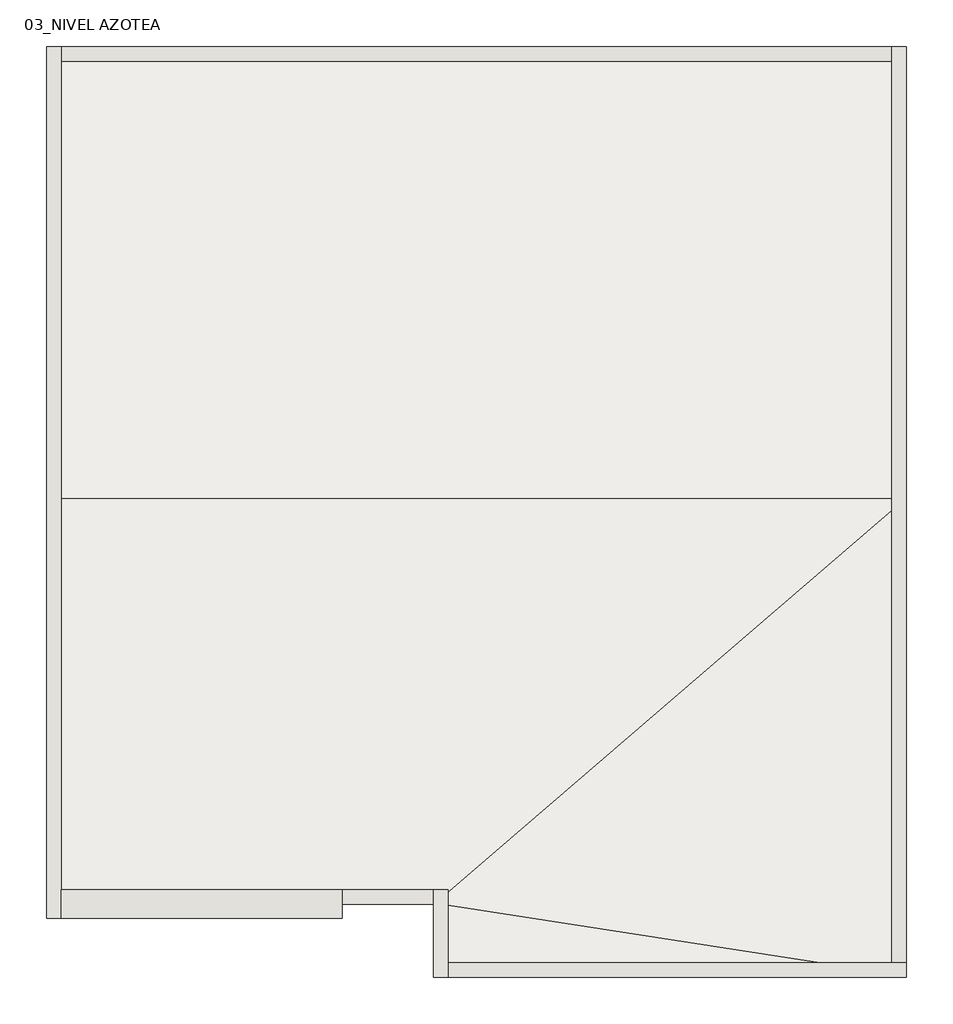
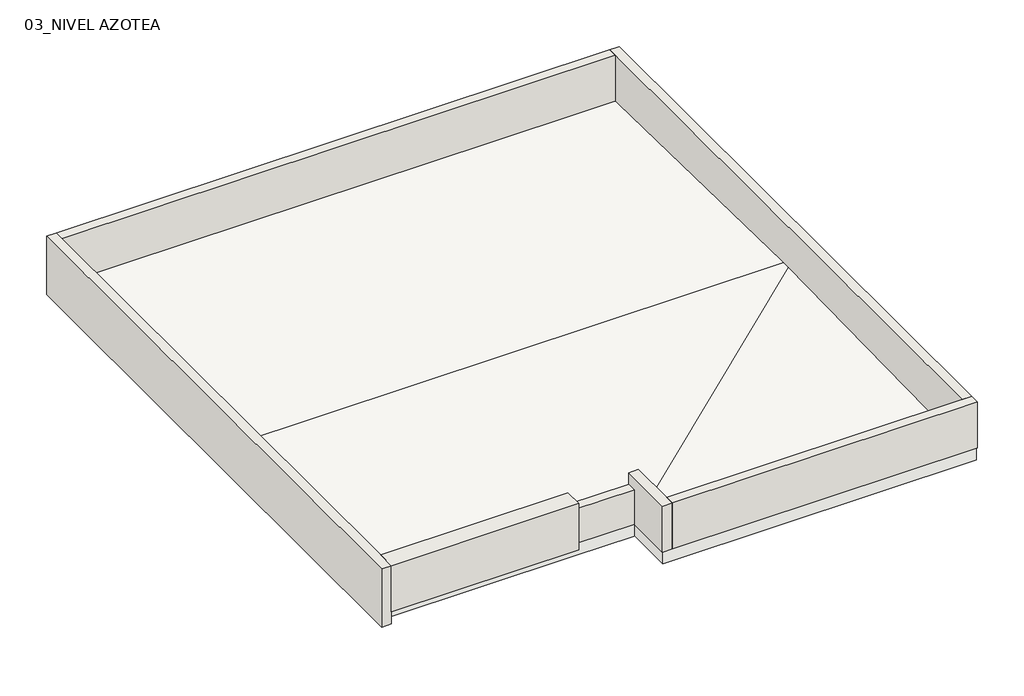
# One storey: 7 walls, 1 slab.
"""IFC4 building model written with IfcOpenShell, lengths in millimetres."""

from ifc_helpers import new_model, si_unit, frame, origin, place, context, project, spatial, polyline, outline, extrude, faceted_brep, element, save

model = new_model("IFC4")

# Units and contexts
model_context = context("Model", 3, world=origin())
ifc_project = project(units=[si_unit("LENGTHUNIT", "METRE", prefix="MILLI")], contexts=[model_context])

# Site, building, storey
site = spatial("IfcSite", under=ifc_project)
building = spatial("IfcBuilding", under=site)
storey = spatial("IfcBuildingStorey", under=building, Name="03_NIVEL AZOTEA", Elevation=5900.0)

# Slab
placement = place(None, origin())
element("IfcSlab", 1, ObjectType="LOSA DE AZOTEA ALIGERADA 20 CM + compresión +YESO 2", at=placement, inside=storey, context=model_context, shape_type="Brep", body=[
    faceted_brep([(3846.5346352, 9001.9853574, 5684.0), (3846.5346352, 9001.9853574, 5900.0), (3991.5346352, 9001.9853574, 5900.0), (13091.5346352, 9001.9853574, 5900.0), (13236.5346352, 9001.9853574, 5900.0), (13236.5346352, 9001.9853574, 5684.0), (13091.5346352, 9001.9853574, 5684.0), (3991.5346352, 9001.9853574, 5684.0), (13236.5346352, 4061.9853574, 6000.0), (13236.5346352, -1018.0146426, 5902.7751196), (13236.5346352, -1163.0146426, 5900.0), (13236.5346352, -1163.0146426, 5684.0), (13236.5346352, -1018.0146426, 5686.7751196), (13236.5346352, 4061.9853574, 5784.0), (13236.5346352, 8321.9853574, 5697.7651822), (8231.5346352, -1163.0146426, 5900.0), (8086.5346352, -1163.0146426, 5900.0), (8086.5346352, -1163.0146426, 5684.0), (8231.5346352, -1163.0146426, 5684.0), (8086.5346352, -363.0146426, 5900.0), (8086.5346352, -363.0146426, 5684.0), (3991.5346352, -363.0146426, 5900.0), (3846.5346352, -363.0146426, 5900.0), (3846.5346352, -363.0146426, 5684.0), (3991.5346352, -363.0146426, 5684.0), (7071.5346352, -363.0146426, 5684.0), (8071.5346352, -363.0146426, 5684.0), (3846.5346352, 4061.9853574, 6000.0), (3846.5346352, 4061.9853574, 5784.0), (13091.5346352, 3937.3979788, 5997.184466), (13091.5346352, 4061.9853574, 6000.0), (3991.5346352, 4061.9853574, 6000.0), (3991.5346352, 4061.9853574, 5784.0), (8071.5346352, 4061.9853574, 5784.0), (8231.5346352, 4061.9853574, 5784.0), (13091.5346352, 4061.9853574, 5784.0), (13091.5346352, 3937.3979788, 5781.184466), (10991.5346352, 2133.0290468, 5740.407767), (10831.5346352, 1995.5533186, 5737.3009709), (9256.1956522, 641.9853574, 5706.7118644), (9069.9809629, 481.9853574, 5703.0960452), (8231.5346352, -238.4272639, 5686.815534), (8162.1843527, -298.0146426, 5685.4689266), (12303.0971352, -1018.0146426, 5900.0), (8231.5346352, -385.5389144, 5684.0), (10831.5346352, -789.4224096, 5684.0), (10991.5346352, -814.2767785, 5684.0), (12303.0971352, -1018.0146426, 5684.0)], [[[0, 1, 2, 3, 4, 5, 6, 7]], [[5, 4, 8, 9, 10, 11, 12, 13, 14]], [[11, 10, 15, 16, 17, 18]], [[17, 16, 19, 20]], [[20, 19, 21, 22, 23, 24, 25, 26]], [[23, 22, 27, 1, 0, 28]], [[22, 21, 19, 29, 8, 30, 31, 27]], [[23, 28, 32, 33, 34, 35, 13, 36, 37, 38, 39, 40, 41, 42, 20, 26, 25, 24]], [[19, 16, 15, 10, 43]], [[19, 43, 10, 9, 8, 29]], [[20, 44, 45, 46, 47, 11, 18, 17]], [[20, 42, 41, 40, 39, 38, 37, 36, 13, 12, 11, 47, 46, 45, 44]], [[1, 27, 31, 30, 8, 4, 3, 2]], [[0, 7, 6, 5, 14, 13, 35, 34, 33, 32, 28]]]),
])

# Walls
element("IfcWall", 2, ObjectType="M_TABICÓN_28 MO+ MO", at=placement, inside=storey, context=model_context, shape_type="SweptSolid", body=[
    extrude(outline(polyline([(-528.0146426, 5900.0), (-528.0146426, 6700.0), (-218.0146426, 6700.0), (-218.0146426, 5903.2768362), (-363.0146426, 5900.0), (-528.0146426, 5900.0)])), frame((3991.5346352, 0.0, 0.0), z_axis=(1.0, 0.0, 0.0), x_axis=(0.0, 1.0, 0.0)), (0.0, 0.0, 1.0), 3080.0),
])
element("IfcWall", 3, ObjectType="M_LADRILLO_13-YESO+YESO", at=placement, inside=storey, context=model_context, shape_type="SweptSolid", body=[
    extrude(outline(polyline([(-378.0146426, 6500.0), (-218.0146426, 6500.0), (-218.0146426, 5903.2768362), (-363.0146426, 5900.0), (-378.0146426, 5900.0), (-378.0146426, 6500.0)])), frame((7071.5346352, 0.0, 0.0), z_axis=(1.0, 0.0, 0.0), x_axis=(0.0, 1.0, 0.0)), (0.0, 0.0, 1.0), 1000.0),
])
element("IfcWall", 4, ObjectType="M_LADRILLO_13-YESO+YESO", at=placement, inside=storey, context=model_context, shape_type="Brep", body=[
    faceted_brep([(8231.5346352, -1178.0146426, 5900.0), (8231.5346352, -1163.0146426, 5900.0), (8231.5346352, -1018.0146426, 5900.0), (8231.5346352, -218.0146426, 5900.0), (8231.5346352, -218.0146426, 6700.0), (8231.5346352, -1018.0146426, 6700.0), (8231.5346352, -1178.0146426, 6700.0), (8071.5346352, -1178.0146426, 5900.0), (8071.5346352, -1178.0146426, 6700.0), (8071.5346352, -218.0146426, 6700.0), (8071.5346352, -218.0146426, 6500.0), (8071.5346352, -218.0146426, 5900.0), (8071.5346352, -363.0146426, 5900.0)], [[[0, 1, 2, 3, 4, 5, 6]], [[7, 8, 9, 10, 11, 12]], [[3, 2, 1, 0, 7, 12, 11]], [[6, 5, 4, 9, 8]], [[4, 3, 11, 10, 9]], [[0, 6, 8, 7]]]),
])
element("IfcWall", 5, ObjectType="M_LADRILLO_13-YESO+YESO", at=placement, inside=storey, context=model_context, shape_type="Brep", body=[
    faceted_brep([(8231.5346352, -1178.0146426, 5900.0), (13251.5346352, -1178.0146426, 5900.0), (13251.5346352, -1178.0146426, 6700.0), (8231.5346352, -1178.0146426, 6700.0), (8231.5346352, -1018.0146426, 6700.0), (13091.5346352, -1018.0146426, 6700.0), (13251.5346352, -1018.0146426, 6700.0), (13251.5346352, -1018.0146426, 5900.0), (13236.5346352, -1018.0146426, 5900.0), (13236.5346352, -1018.0146426, 5902.7751196), (13091.5346352, -1018.0146426, 5902.3440331), (12303.0971352, -1018.0146426, 5900.0), (8231.5346352, -1018.0146426, 5900.0), (8231.5346352, -1163.0146426, 5900.0), (13236.5346352, -1163.0146426, 5900.0)], [[[0, 1, 2, 3]], [[4, 5, 6, 7, 8, 9, 10, 11, 12]], [[1, 0, 13, 12, 11, 14, 8, 7]], [[3, 2, 6, 5, 4]], [[3, 4, 12, 13, 0]], [[1, 7, 6, 2]], [[14, 9, 8]], [[9, 14, 11, 10]]]),
])
element("IfcWall", 6, ObjectType="M_LADRILLO_13-YESO+YESO", at=placement, inside=storey, context=model_context, shape_type="Brep", body=[
    faceted_brep([(13251.5346352, -1018.0146426, 5900.0), (13251.5346352, 8321.9853574, 5900.0), (13251.5346352, 9016.9853574, 5900.0), (13251.5346352, 9016.9853574, 6700.0), (13251.5346352, -1018.0146426, 6700.0), (13091.5346352, -1018.0146426, 6700.0), (13091.5346352, 8856.9853574, 6700.0), (13091.5346352, 9016.9853574, 6700.0), (13091.5346352, 9016.9853574, 5900.0), (13091.5346352, 9001.9853574, 5900.0), (13091.5346352, 8856.9853574, 5902.9352227), (13091.5346352, 4061.9853574, 6000.0), (13091.5346352, 3937.3979788, 5997.184466), (13091.5346352, -1018.0146426, 5902.3440331), (13236.5346352, -1018.0146426, 5900.0), (13236.5346352, 8321.9853574, 5900.0), (13236.5346352, 9001.9853574, 5900.0), (13236.5346352, -1018.0146426, 5902.7751196), (13236.5346352, 4061.9853574, 6000.0)], [[[0, 1, 2, 3, 4]], [[5, 6, 7, 8, 9, 10, 11, 12, 13]], [[2, 1, 0, 14, 15, 16, 9, 8]], [[4, 3, 7, 6, 5]], [[0, 4, 5, 13, 17, 14]], [[18, 16, 15, 14, 17]], [[11, 18, 12]], [[12, 18, 17, 13]], [[3, 2, 8, 7]], [[16, 18, 11, 10, 9]]]),
])
element("IfcWall", 7, ObjectType="M_LADRILLO_13-YESO+YESO", at=placement, inside=storey, context=model_context, shape_type="Brep", body=[
    faceted_brep([(3831.5346352, 9016.9853574, 5684.0), (3831.5346352, 8401.9853574, 5684.0), (3831.5346352, 8241.9853574, 5684.0), (3831.5346352, -528.0146426, 5684.0), (3831.5346352, -528.0146426, 6700.0), (3831.5346352, 9016.9853574, 6700.0), (3991.5346352, 9016.9853574, 6700.0), (3991.5346352, 8856.9853574, 6700.0), (3991.5346352, -218.0146426, 6700.0), (3991.5346352, -528.0146426, 6700.0), (3991.5346352, -528.0146426, 5900.0), (3991.5346352, -528.0146426, 5684.0), (3991.5346352, -363.0146426, 5684.0), (3991.5346352, -363.0146426, 5900.0), (3991.5346352, -218.0146426, 5903.2768362), (3991.5346352, 4061.9853574, 6000.0), (3991.5346352, 8856.9853574, 5902.9352227), (3991.5346352, 9001.9853574, 5900.0), (3991.5346352, 9001.9853574, 5684.0), (3991.5346352, 9016.9853574, 5684.0), (3991.5346352, 8241.9853574, 5684.0), (3991.5346352, 8401.9853574, 5684.0), (3991.5346352, 8856.9853574, 5684.0), (3991.5346352, 8856.9853574, 5686.9352227), (3991.5346352, 8401.9853574, 5696.145749), (3991.5346352, 8241.9853574, 5699.3846154), (3991.5346352, 4441.9853574, 5776.3076923), (3991.5346352, 4281.9853574, 5779.5465587), (3991.5346352, 4061.9853574, 5784.0), (3991.5346352, -218.0146426, 5687.2768362), (3846.5346352, 9001.9853574, 5900.0), (3846.5346352, 9001.9853574, 5684.0), (3846.5346352, -363.0146426, 5684.0), (3846.5346352, -363.0146426, 5900.0), (3846.5346352, 4061.9853574, 6000.0), (3846.5346352, 4061.9853574, 5784.0)], [[[0, 1, 2, 3, 4, 5]], [[6, 7, 8, 9, 10, 11, 12, 13, 14, 15, 16, 17, 18, 19]], [[12, 20, 21, 22, 18, 23, 24, 25, 26, 27, 28, 29]], [[3, 2, 1, 0, 19, 18, 22, 21, 20, 12, 11]], [[5, 4, 9, 8, 7, 6]], [[0, 5, 6, 19]], [[3, 11, 10, 9, 4]], [[30, 31, 18, 17]], [[32, 33, 13, 12]], [[31, 30, 34, 33, 32, 35]], [[33, 34, 15, 14, 13]], [[35, 32, 12, 29, 28]], [[34, 30, 17, 16, 15]], [[31, 35, 28, 27, 26, 25, 24, 23, 18]]]),
])
element("IfcWall", 8, ObjectType="M_LADRILLO_13-YESO+YESO", at=placement, inside=storey, context=model_context, shape_type="Brep", body=[
    faceted_brep([(3991.5346352, 8856.9853574, 5684.0), (13091.5346352, 8856.9853574, 5684.0), (13091.5346352, 8856.9853574, 5686.9352227), (3991.5346352, 8856.9853574, 5686.9352227), (13091.5346352, 8856.9853574, 6700.0), (3991.5346352, 8856.9853574, 6700.0), (3991.5346352, 8856.9853574, 5902.9352227), (13091.5346352, 8856.9853574, 5902.9352227), (13091.5346352, 9016.9853574, 5684.0), (3991.5346352, 9016.9853574, 5684.0), (3991.5346352, 9016.9853574, 6700.0), (13091.5346352, 9016.9853574, 6700.0), (13091.5346352, 9016.9853574, 5900.0), (3991.5346352, 9001.9853574, 5684.0), (13091.5346352, 9001.9853574, 5684.0), (3991.5346352, 9001.9853574, 5900.0), (13091.5346352, 9001.9853574, 5900.0)], [[[0, 1, 2, 3]], [[4, 5, 6, 7]], [[8, 9, 10, 11, 12]], [[1, 0, 13, 9, 8, 14]], [[5, 4, 11, 10]], [[5, 10, 9, 13, 15, 6]], [[0, 3, 13]], [[13, 14, 16, 15]], [[2, 1, 14]], [[8, 12, 11, 4, 7, 16, 14]], [[15, 16, 7, 6]], [[14, 13, 3, 2]]]),
])

save(model, "model.ifc")
